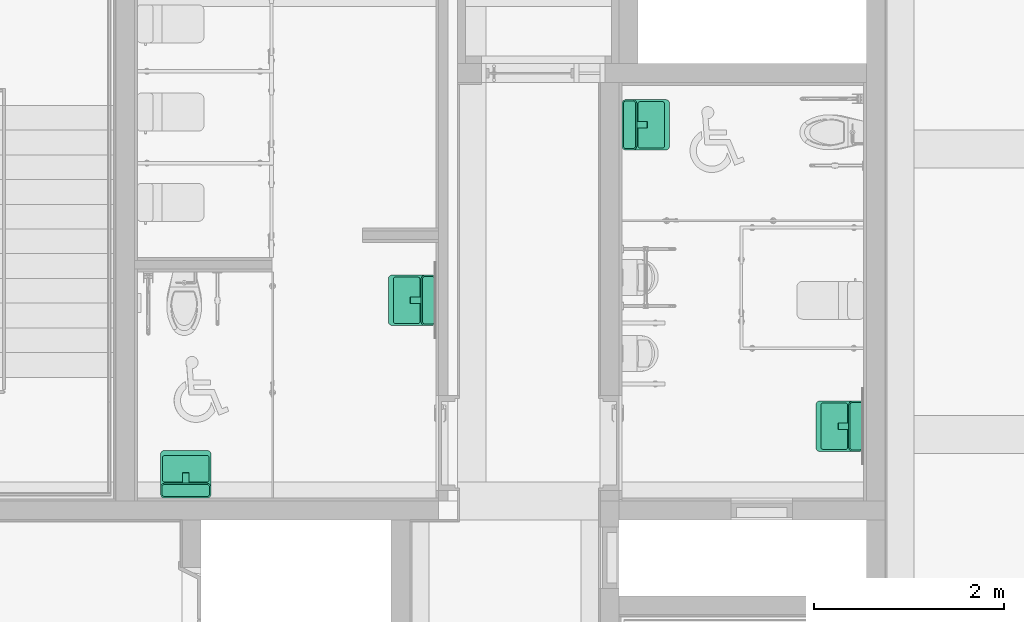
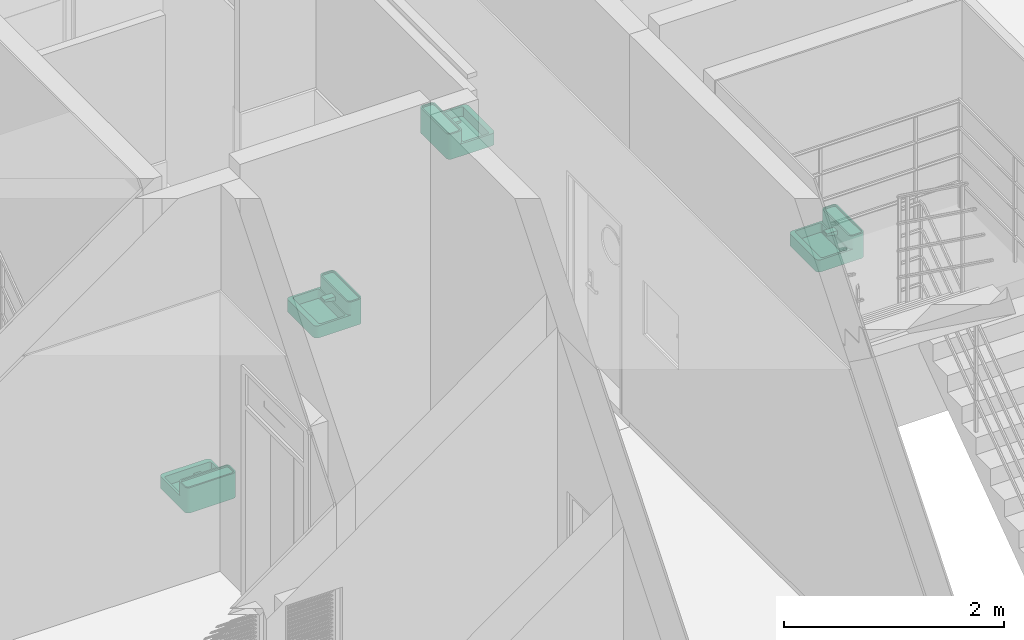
# One storey, part 70 of 74: 4 flow terminals.
"""IFC2X3 building model written with IfcOpenShell, lengths in millimetres."""

from ifc_helpers import new_model, entity, si_unit, converted_unit, derived_unit, direction, frame, origin, place, context, subcontext, project, spatial, faceted_brep, source, transform, mapped, material, material_list, type_object, type_shapes, element, save


model = new_model("IFC2X3")

# Units and contexts
model_context = context("Model", 3, precision=0.01, world=origin(), true_north=direction((6.123031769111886e-17, 1.0)))
body_context = subcontext(model_context, "Body", "Model", "MODEL_VIEW")
ifc_project = project(units=[si_unit("LENGTHUNIT", "METRE", prefix="MILLI"), si_unit("AREAUNIT", "SQUARE_METRE"), si_unit("VOLUMEUNIT", "CUBIC_METRE"), converted_unit("PLANEANGLEUNIT", "DEGREE", entity("IfcRatioMeasure", 0.017453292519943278), si_unit("PLANEANGLEUNIT", "RADIAN"), dimensions=[0, 0, 0, 0, 0, 0, 0]), si_unit("MASSUNIT", "GRAM", prefix="KILO"), derived_unit("MASSDENSITYUNIT", [(si_unit("MASSUNIT", "GRAM", prefix="KILO"), 1), (si_unit("LENGTHUNIT", "METRE"), -3)]), derived_unit("MOMENTOFINERTIAUNIT", [(si_unit("LENGTHUNIT", "METRE"), 4)]), si_unit("TIMEUNIT", "SECOND"), si_unit("FREQUENCYUNIT", "HERTZ"), si_unit("THERMODYNAMICTEMPERATUREUNIT", "DEGREE_CELSIUS"), derived_unit("THERMALTRANSMITTANCEUNIT", [(si_unit("MASSUNIT", "GRAM", prefix="KILO"), 1), (si_unit("THERMODYNAMICTEMPERATUREUNIT", "KELVIN"), -1), (si_unit("TIMEUNIT", "SECOND"), -3)]), derived_unit("VOLUMETRICFLOWRATEUNIT", [(si_unit("LENGTHUNIT", "METRE"), 3), (si_unit("TIMEUNIT", "SECOND"), -1)]), derived_unit("MASSFLOWRATEUNIT", [(si_unit("MASSUNIT", "GRAM", prefix="KILO"), 1), (si_unit("TIMEUNIT", "SECOND"), -1)]), derived_unit("ROTATIONALFREQUENCYUNIT", [(si_unit("TIMEUNIT", "SECOND"), -1)]), si_unit("ELECTRICCURRENTUNIT", "AMPERE"), si_unit("ELECTRICVOLTAGEUNIT", "VOLT"), si_unit("POWERUNIT", "WATT"), si_unit("FORCEUNIT", "NEWTON", prefix="KILO"), si_unit("ILLUMINANCEUNIT", "LUX"), si_unit("LUMINOUSFLUXUNIT", "LUMEN"), si_unit("LUMINOUSINTENSITYUNIT", "CANDELA"), derived_unit("USERDEFINED", [(si_unit("MASSUNIT", "GRAM", prefix="KILO"), -1), (si_unit("LENGTHUNIT", "METRE"), -2), (si_unit("TIMEUNIT", "SECOND"), 3), (si_unit("LUMINOUSFLUXUNIT", "LUMEN"), 1)]), derived_unit("SOUNDPOWERUNIT", [(si_unit("MASSUNIT", "GRAM", prefix="KILO"), 1), (si_unit("LENGTHUNIT", "METRE"), 2), (si_unit("TIMEUNIT", "SECOND"), -3)]), derived_unit("SOUNDPRESSUREUNIT", [(si_unit("MASSUNIT", "GRAM", prefix="KILO"), 1), (si_unit("LENGTHUNIT", "METRE"), -1), (si_unit("TIMEUNIT", "SECOND"), -2)]), derived_unit("LINEARVELOCITYUNIT", [(si_unit("LENGTHUNIT", "METRE"), 1), (si_unit("TIMEUNIT", "SECOND"), -1)]), si_unit("PRESSUREUNIT", "PASCAL"), derived_unit("USERDEFINED", [(si_unit("LENGTHUNIT", "METRE"), -2), (si_unit("MASSUNIT", "GRAM", prefix="KILO"), 1), (si_unit("TIMEUNIT", "SECOND"), -2)]), derived_unit("LINEARFORCEUNIT", [(si_unit("MASSUNIT", "GRAM", prefix="KILO"), 1), (si_unit("LENGTHUNIT", "METRE"), 1), (si_unit("TIMEUNIT", "SECOND"), -2), (si_unit("LENGTHUNIT", "METRE"), -1)]), derived_unit("PLANARFORCEUNIT", [(si_unit("MASSUNIT", "GRAM", prefix="KILO"), 1), (si_unit("LENGTHUNIT", "METRE"), 1), (si_unit("TIMEUNIT", "SECOND"), -2), (si_unit("LENGTHUNIT", "METRE"), -2)])], contexts=[model_context])

# Site, building, storey, space
site_placement = place(None, frame((-14167.972527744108, -657.2125860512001, 0.0)))
site = spatial("IfcSite", under=ifc_project, at=site_placement, Name="Default", CompositionType="ELEMENT")
building_placement = place(site_placement, origin())
building = spatial("IfcBuilding", under=site, at=building_placement, Name="Sample Building", CompositionType="ELEMENT")
storey_placement = place(building_placement, frame((0.0, 0.0, 4800.0)))
storey = spatial("IfcBuildingStorey", under=building, at=storey_placement, Name="지상 2층", CompositionType="ELEMENT", Elevation=4800.000000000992)
space_1_placement = place(storey_placement, origin())
space_1 = spatial("IfcSpace", under=storey, at=space_1_placement, Name="189", CompositionType="ELEMENT", InteriorOrExteriorSpace="INTERNAL")

# Flow terminal
ifc_material_1 = material(Name="KBIMS-스테인리스 스틸_도금")
ifc_material_2 = material(Name="KBIMS-도기")
ifc_material_list_1 = material_list([ifc_material_1, ifc_material_2])
ifc_material_list_2 = material_list([ifc_material_1, ifc_material_2])
distribution_element_type = type_object("IfcDistributionElementType", Name="PF411-평면붙임형 세면기:PF411-평면붙임형 세면기", material=ifc_material_list_2)
shared_shape = source(origin(), body_context, "Body", "Brep", [
    faceted_brep([(300.325836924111, 231.5952722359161, 201.9113756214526), (300.325836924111, 231.59527223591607, 190.0), (300.325836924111, 346.5952722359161, 163.45015802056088), (300.325836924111, 346.5952722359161, 210.0), (300.325836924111, 239.68389661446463, 210.0), (300.325836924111, 237.59040657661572, 209.724386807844), (300.325836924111, 235.63958442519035, 208.9163298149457), (300.325836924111, 233.96437546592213, 207.63089676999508), (300.325836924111, 232.67894242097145, 205.9556878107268), (300.325836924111, 231.87088542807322, 204.00486565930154), (232.86470754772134, 231.5952722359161, 201.9113756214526), (232.86470754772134, 231.87088542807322, 204.00486565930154), (232.86470754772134, 232.67894242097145, 205.9556878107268), (232.86470754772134, 233.96437546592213, 207.63089676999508), (232.86470754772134, 235.63958442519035, 208.9163298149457), (232.86470754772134, 237.59040657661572, 209.724386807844), (232.86470754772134, 239.68389661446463, 210.0), (232.86470754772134, 346.5952722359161, 210.0), (232.86470754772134, 346.5952722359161, 163.45015802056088), (232.86470754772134, 231.59527223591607, 190.0)], [[[0, 1, 2, 3, 4, 5, 6, 7, 8, 9]], [[10, 11, 12, 13, 14, 15, 16, 17, 18, 19]], [[5, 4, 16, 15]], [[6, 5, 15, 14]], [[13, 7, 6, 14]], [[9, 8, 12, 11]], [[9, 11, 10, 0]], [[13, 12, 8, 7]], [[1, 0, 10, 19]], [[2, 1, 19, 18]], [[3, 2, 18, 17]], [[4, 3, 17, 16]]]),
    faceted_brep([(526.236288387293, 481.59527223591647, 280.0), (519.8795434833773, 489.87954348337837, 280.0), (513.2459073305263, 474.09527223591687, 280.0), (515.743417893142, 468.0657483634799, 280.0), (530.2323052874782, 471.94803404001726, 280.0), (509.2729417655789, 479.27294176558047, 280.0), (511.59527223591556, 496.2362883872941, 280.0), (504.0952722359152, 483.2459073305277, 280.0), (501.9480340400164, 500.23230528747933, 280.0), (498.0657483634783, 485.74341789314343, 280.0), (491.5952722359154, 501.5952722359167, 280.0), (491.5952722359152, 486.5952722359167, 280.0), (41.59527223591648, 501.5952722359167, 280.0), (41.59527223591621, 486.5952722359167, 280.0), (35.124796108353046, 485.7434178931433, 280.0), (31.242510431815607, 500.2323052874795, 280.0), (29.095272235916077, 483.2459073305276, 280.0), (21.59527223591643, 496.23628838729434, 280.0), (23.9176027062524, 479.2729417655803, 280.0), (13.311000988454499, 489.87954348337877, 280.0), (19.944637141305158, 474.0952722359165, 280.0), (6.95425608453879, 481.59527223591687, 280.0), (17.447126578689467, 468.06574836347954, 280.0), (2.9582391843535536, 471.94803404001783, 280.0), (1.5952722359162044, 461.5952722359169, 280.0), (16.595272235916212, 461.5952722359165, 280.0), (16.595272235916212, 386.59527223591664, 280.0), (1.5952722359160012, 386.5952722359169, 280.0), (17.447126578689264, 380.12479610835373, 280.0), (2.958239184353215, 376.24251043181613, 280.0), (6.954256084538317, 366.595272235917, 280.0), (19.94463714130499, 374.09527223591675, 280.0), (13.311000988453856, 358.3110009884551, 280.0), (23.917602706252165, 368.9176027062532, 280.0), (21.59527223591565, 351.9542560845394, 280.0), (29.095272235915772, 364.94463714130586, 280.0), (31.24251043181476, 347.95823918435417, 280.0), (35.12479610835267, 362.44712657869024, 280.0), (41.59527223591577, 346.59527223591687, 280.0), (41.59527223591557, 361.5952722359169, 280.0), (491.5952722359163, 361.5952722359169, 280.0), (491.595272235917, 346.59527223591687, 280.0), (498.0657483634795, 362.44712657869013, 280.0), (501.9480340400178, 347.9582391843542, 280.0), (504.09527223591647, 364.94463714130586, 280.0), (511.59527223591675, 351.9542560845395, 280.0), (509.2729417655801, 368.91760270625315, 280.0), (519.8795434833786, 358.31100098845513, 280.0), (513.2459073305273, 374.0952722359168, 280.0), (526.236288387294, 366.59527223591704, 280.0), (515.743417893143, 380.1247961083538, 280.0), (530.2323052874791, 376.24251043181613, 280.0), (531.5952722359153, 386.59527223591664, 280.0), (516.5952722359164, 386.59527223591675, 280.0), (531.5952722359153, 461.5952722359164, 280.0), (516.5952722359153, 461.5952722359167, 280.0), (13.311000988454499, 489.87954348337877, 0.0), (21.59527223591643, 496.23628838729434, 0.0), (31.242510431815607, 500.2323052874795, 0.0), (41.59527223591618, 501.5952722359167, 0.0), (491.5952722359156, 501.5952722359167, 0.0), (501.9480340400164, 500.23230528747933, 0.0), (511.59527223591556, 496.2362883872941, 0.0), (519.8795434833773, 489.87954348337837, 0.0), (526.236288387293, 481.59527223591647, 0.0), (530.2323052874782, 471.94803404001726, 0.0), (531.5952722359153, 461.5952722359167, 0.0), (531.5952722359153, 41.59527223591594, 0.0), (530.232305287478, 31.2425104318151, 0.0), (526.2362883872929, 21.595272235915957, 0.0), (519.8795434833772, 13.31100098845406, 0.0), (511.5952722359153, 6.954256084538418, 0.0), (501.9480340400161, 2.958239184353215, 0.0), (491.5952722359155, 1.5952722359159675, 0.0), (41.59527223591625, 1.5952722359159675, 0.0), (31.242510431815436, 2.9582391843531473, 0.0), (21.595272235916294, 6.9542560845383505, 0.0), (13.311000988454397, 13.311000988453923, 0.0), (6.954256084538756, 21.59527223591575, 0.0), (2.95823918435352, 31.242510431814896, 0.0), (1.5952722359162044, 41.5952722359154, 0.0), (1.5952722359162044, 461.595272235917, 0.0), (2.9582391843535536, 471.94803404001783, 0.0), (6.95425608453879, 481.59527223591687, 0.0), (1.5952722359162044, 41.59527223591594, 135.0), (1.5952722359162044, 386.59527223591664, 135.0), (2.9582391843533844, 31.242510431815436, 135.0), (6.954256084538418, 21.59527223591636, 135.0), (13.311000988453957, 13.311000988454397, 135.0), (21.595272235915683, 6.954256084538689, 135.0), (31.242510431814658, 2.958239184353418, 135.0), (41.59527223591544, 1.5952722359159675, 135.0), (491.59527223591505, 1.5952722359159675, 135.0), (501.9480340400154, 2.9582391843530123, 135.0), (511.59527223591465, 6.954256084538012, 135.0), (519.8795434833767, 13.31100098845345, 135.0), (526.2362883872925, 21.59527223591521, 135.0), (530.2323052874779, 31.242510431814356, 135.0), (531.5952722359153, 41.59527223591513, 135.0), (531.5952722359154, 386.59527223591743, 135.0), (22.457263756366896, 313.81753553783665, 135.0), (6.954256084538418, 366.59527223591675, 135.0), (2.958239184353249, 376.2425104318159, 135.0), (13.31100098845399, 358.3110009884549, 135.0), (23.138747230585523, 318.993916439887, 135.0), (22.457263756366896, 75.92091166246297, 135.0), (25.13675568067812, 323.8175355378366, 135.0), (21.59527223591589, 351.9542560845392, 135.0), (28.315128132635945, 327.9596711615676, 135.0), (31.242510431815, 347.9582391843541, 135.0), (32.45726375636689, 331.13804361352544, 135.0), (37.28088285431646, 333.13605206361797, 135.0), (41.59527223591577, 346.59527223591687, 135.0), (42.45726375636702, 333.8175355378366, 135.0), (266.5952722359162, 333.8175355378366, 135.0), (491.5952722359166, 346.59527223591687, 135.0), (490.73328071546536, 333.8175355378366, 135.0), (495.90966161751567, 333.136052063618, 135.0), (501.9480340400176, 347.9582391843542, 135.0), (500.73328071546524, 331.13804361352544, 135.0), (504.8754163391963, 327.9596711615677, 135.0), (511.59527223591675, 351.9542560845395, 135.0), (508.05378879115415, 323.8175355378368, 135.0), (519.8795434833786, 358.31100098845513, 135.0), (510.0517972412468, 318.9939164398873, 135.0), (510.7332807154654, 313.81753553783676, 135.0), (526.236288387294, 366.5952722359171, 135.0), (530.2323052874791, 376.2425104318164, 135.0), (510.7332807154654, 75.92091166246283, 135.0), (510.0517972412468, 70.74453076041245, 135.0), (508.05378879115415, 65.92091166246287, 135.0), (504.8754163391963, 61.77877603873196, 135.0), (500.73328071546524, 58.60040358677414, 135.0), (495.90966161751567, 56.60239513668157, 135.0), (490.73328071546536, 55.920911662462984, 135.0), (266.5952722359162, 55.920911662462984, 135.0), (42.457263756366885, 55.920911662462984, 135.0), (37.28088285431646, 56.60239513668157, 135.0), (32.45726375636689, 58.600403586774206, 135.0), (28.315128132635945, 61.778776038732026, 135.0), (25.13675568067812, 65.92091166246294, 135.0), (23.138747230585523, 70.74453076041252, 135.0), (35.124796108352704, 362.44712657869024, 263.25881706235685), (41.59527223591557, 361.5952722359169, 263.25881706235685), (491.5952722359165, 361.5952722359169, 263.25881706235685), (498.06574836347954, 362.44712657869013, 263.25881706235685), (504.09527223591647, 364.94463714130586, 263.25881706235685), (509.2729417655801, 368.91760270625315, 263.25881706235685), (513.2459073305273, 374.09527223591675, 263.25881706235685), (515.743417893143, 380.1247961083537, 263.25881706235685), (516.5952722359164, 386.59527223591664, 263.25881706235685), (516.5952722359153, 461.5952722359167, 263.25881706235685), (515.7434178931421, 468.0657483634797, 263.25881706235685), (513.2459073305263, 474.0952722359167, 263.25881706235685), (509.27294176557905, 479.27294176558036, 263.25881706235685), (504.0952722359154, 483.24590733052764, 263.25881706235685), (498.0657483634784, 485.7434178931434, 263.25881706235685), (491.5952722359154, 486.5952722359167, 263.25881706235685), (41.59527223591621, 486.5952722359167, 263.25881706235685), (35.12479610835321, 485.7434178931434, 263.25881706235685), (29.095272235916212, 483.24590733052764, 263.25881706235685), (23.917602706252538, 479.27294176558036, 263.25881706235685), (19.94463714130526, 474.0952722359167, 263.25881706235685), (17.4471265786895, 468.06574836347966, 263.25881706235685), (16.595272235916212, 461.5952722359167, 263.25881706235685), (16.59527223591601, 386.59527223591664, 263.25881706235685), (17.447126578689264, 380.12479610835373, 263.25881706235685), (19.94463714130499, 374.09527223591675, 263.25881706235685), (23.917602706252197, 368.91760270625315, 263.25881706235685), (29.095272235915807, 364.94463714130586, 263.25881706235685), (28.31512813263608, 327.95967116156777, 30.152650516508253), (25.136755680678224, 323.8175355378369, 30.152650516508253), (23.13874723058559, 318.9939164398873, 30.152650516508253), (22.457263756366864, 313.81753553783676, 30.152650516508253), (22.457263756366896, 75.92091166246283, 30.152650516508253), (23.138747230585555, 70.74453076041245, 30.152650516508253), (25.136755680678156, 65.92091166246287, 30.152650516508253), (28.315128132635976, 61.77877603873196, 30.152650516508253), (32.45726375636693, 58.60040358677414, 30.152650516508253), (37.280882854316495, 56.60239513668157, 30.152650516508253), (42.457263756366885, 55.920911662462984, 30.152650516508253), (266.5952722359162, 55.920911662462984, 30.152650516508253), (490.7332807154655, 55.920911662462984, 30.152650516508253), (495.90966161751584, 56.60239513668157, 30.152650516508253), (500.7332807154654, 58.60040358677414, 30.152650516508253), (504.8754163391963, 61.77877603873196, 30.152650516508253), (508.05378879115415, 65.92091166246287, 30.152650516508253), (510.0517972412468, 70.74453076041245, 30.152650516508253), (510.7332807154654, 75.92091166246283, 30.152650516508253), (510.7332807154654, 313.81753553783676, 30.152650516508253), (510.0517972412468, 318.99391643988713, 30.152650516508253), (508.05378879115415, 323.8175355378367, 30.152650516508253), (504.8754163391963, 327.95967116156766, 30.152650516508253), (500.7332807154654, 331.13804361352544, 30.152650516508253), (495.90966161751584, 333.13605206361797, 30.152650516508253), (490.7332807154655, 333.8175355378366, 30.152650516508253), (266.5952722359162, 333.8175355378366, 30.152650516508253), (42.45726375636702, 333.8175355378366, 30.152650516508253), (37.28088285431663, 333.136052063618, 30.152650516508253), (32.45726375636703, 331.13804361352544, 30.152650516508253)], [[[0, 1, 2]], [[0, 2, 3]], [[4, 0, 3]], [[2, 1, 5]], [[6, 5, 1]], [[7, 5, 6]], [[7, 6, 8]], [[7, 8, 9]], [[9, 8, 10]], [[11, 9, 10]], [[10, 12, 11]], [[12, 13, 11]], [[14, 13, 12]], [[14, 12, 15]], [[14, 15, 16]], [[16, 15, 17]], [[18, 16, 17]], [[17, 19, 18]], [[19, 20, 18]], [[20, 19, 21]], [[20, 21, 22]], [[22, 21, 23]], [[23, 24, 22]], [[25, 22, 24]], [[25, 24, 26]], [[27, 26, 24]], [[28, 26, 27]], [[28, 27, 29]], [[28, 29, 30]], [[30, 31, 28]], [[32, 31, 30]], [[31, 32, 33]], [[33, 32, 34]], [[35, 33, 34]], [[35, 34, 36]], [[37, 35, 36]], [[38, 37, 36]], [[39, 37, 38]], [[39, 38, 40]], [[41, 40, 38]], [[40, 41, 42]], [[41, 43, 42]], [[44, 42, 43]], [[45, 44, 43]], [[46, 44, 45]], [[46, 45, 47]], [[47, 48, 46]], [[48, 47, 49]], [[50, 48, 49]], [[51, 50, 49]], [[52, 50, 51]], [[52, 53, 50]], [[53, 52, 54]], [[54, 4, 3]], [[3, 55, 54]], [[54, 55, 53]], [[56, 57, 58, 59, 60, 61, 62, 63, 64, 65, 66, 67, 68, 69, 70, 71, 72, 73, 74, 75, 76, 77, 78, 79, 80, 81, 82, 83]], [[12, 10, 60, 59]], [[15, 58, 57, 17]], [[17, 57, 56, 19]], [[59, 58, 15, 12]], [[21, 83, 82, 23]], [[23, 82, 81, 24]], [[19, 56, 83, 21]], [[24, 81, 80, 84, 85, 27]], [[86, 79, 78, 87]], [[87, 78, 77, 88]], [[80, 79, 86, 84]], [[89, 76, 75, 90]], [[90, 75, 74, 91]], [[88, 77, 76, 89]], [[92, 91, 74, 73]], [[93, 72, 71, 94]], [[94, 71, 70, 95]], [[73, 72, 93, 92]], [[96, 69, 68, 97]], [[97, 68, 67, 98]], [[95, 70, 69, 96]], [[54, 52, 99, 98, 67, 66]], [[4, 65, 64, 0]], [[0, 64, 63, 1]], [[66, 65, 4, 54]], [[6, 62, 61, 8]], [[8, 61, 60, 10]], [[1, 63, 62, 6]], [[100, 101, 102]], [[101, 100, 103]], [[103, 100, 104]], [[84, 100, 102]], [[100, 84, 105]], [[106, 103, 104]], [[106, 107, 103]], [[108, 107, 106]], [[109, 107, 108]], [[110, 109, 108]], [[109, 110, 111]], [[112, 109, 111]], [[113, 112, 111]], [[114, 112, 113]], [[115, 112, 114]], [[114, 116, 115]], [[115, 116, 117]], [[118, 115, 117]], [[119, 118, 117]], [[118, 119, 120]], [[120, 121, 118]], [[121, 120, 122]], [[122, 123, 121]], [[123, 122, 124]], [[123, 124, 125]], [[126, 123, 125]], [[125, 127, 126]], [[127, 125, 98]], [[128, 98, 125]], [[98, 128, 129]], [[129, 130, 98]], [[98, 130, 131]], [[131, 132, 98]], [[132, 97, 98]], [[132, 133, 97]], [[97, 133, 96]], [[96, 133, 95]], [[94, 95, 133]], [[134, 94, 133]], [[93, 94, 134]], [[93, 134, 92]], [[134, 135, 92]], [[92, 135, 91]], [[91, 135, 136]], [[136, 90, 91]], [[90, 136, 89]], [[137, 89, 136]], [[89, 137, 88]], [[137, 87, 88]], [[137, 86, 87]], [[138, 86, 137]], [[138, 84, 86]], [[139, 84, 138]], [[140, 84, 139]], [[140, 141, 84]], [[141, 105, 84]], [[98, 99, 127]], [[84, 102, 85]], [[115, 41, 38, 112]], [[109, 112, 38, 36]], [[107, 109, 36, 34]], [[34, 32, 103, 107]], [[102, 101, 30, 29]], [[85, 102, 29, 27]], [[32, 30, 101, 103]], [[127, 99, 52, 51]], [[126, 127, 51, 49]], [[49, 47, 123, 126]], [[118, 121, 45, 43]], [[115, 118, 43, 41]], [[47, 45, 121, 123]], [[142, 143, 144, 145, 146, 147, 148, 149, 150, 151, 152, 153, 154, 155, 156, 157, 158, 159, 160, 161, 162, 163, 164, 165, 166, 167, 168, 169]], [[164, 25, 26, 165]], [[166, 165, 26, 28]], [[167, 166, 28, 31]], [[167, 31, 33, 168]], [[169, 168, 33, 35]], [[142, 169, 35, 37]], [[142, 37, 39, 143]], [[143, 39, 40, 144]], [[145, 144, 40, 42]], [[146, 145, 42, 44]], [[146, 44, 46, 147]], [[148, 147, 46, 48]], [[149, 148, 48, 50]], [[149, 50, 53, 150]], [[150, 53, 55, 151]], [[152, 151, 55, 3]], [[153, 152, 3, 2]], [[153, 2, 5, 154]], [[155, 154, 5, 7]], [[9, 156, 155, 7]], [[9, 11, 157, 156]], [[157, 11, 13, 158]], [[159, 158, 13, 14]], [[160, 159, 14, 16]], [[160, 16, 18, 161]], [[162, 161, 18, 20]], [[163, 162, 20, 22]], [[163, 22, 25, 164]], [[170, 171, 172, 173, 174, 175, 176, 177, 178, 179, 180, 181, 182, 183, 184, 185, 186, 187, 188, 189, 190, 191, 192, 193, 194, 195, 196, 197, 198, 199]], [[196, 195, 116, 114, 113, 197]], [[199, 198, 111, 110]], [[170, 199, 110, 108]], [[113, 111, 198, 197]], [[172, 171, 106, 104]], [[173, 172, 104, 100]], [[106, 171, 170, 108]], [[173, 100, 105, 174]], [[176, 175, 141, 140]], [[177, 176, 140, 139]], [[105, 141, 175, 174]], [[179, 178, 138, 137]], [[180, 179, 137, 136]], [[138, 178, 177, 139]], [[180, 136, 135, 134, 182, 181]], [[184, 183, 133, 132]], [[185, 184, 132, 131]], [[134, 133, 183, 182]], [[187, 186, 130, 129]], [[188, 187, 129, 128]], [[130, 186, 185, 131]], [[188, 128, 125, 189]], [[122, 120, 192, 191]], [[124, 190, 189, 125]], [[191, 190, 124, 122]], [[194, 193, 119, 117]], [[195, 194, 117, 116]], [[119, 193, 192, 120]]]),
])
type_shapes(distribution_element_type, [shared_shape])
flow_terminal_1_placement = place(space_1_placement, frame((40236.3684827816, 23508.80757406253, 595.0), z_axis=(0.0, 0.0, 1.0), x_axis=(0.0, -1.0, 0.0)))
element("IfcFlowTerminal", 1, at=flow_terminal_1_placement, inside=space_1, type_object=distribution_element_type, material=ifc_material_list_1, Name="PF411-평면붙임형 세면기:PF411-평면붙임형 세면기", ObjectType="PF411-평면붙임형 세면기:PF411-평면붙임형 세면기", context=body_context, shape_type="MappedRepresentation", body=[
    mapped(shared_shape, transform((0.0, 0.0, 0.0), scale=1.0)),
])

# Space
space_2_placement = place(storey_placement, origin())
space_2 = spatial("IfcSpace", under=storey, at=space_2_placement, Name="188", CompositionType="ELEMENT", InteriorOrExteriorSpace="INTERNAL")

# Flow terminals
ifc_material_list_3 = material_list([ifc_material_1, ifc_material_2])
flow_terminal_2_placement = place(space_2_placement, frame((33872.799922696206, 22988.807575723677, 635.0), z_axis=(0.0, 0.0, 1.0), x_axis=(-1.0, 0.0, 0.0)))
element("IfcFlowTerminal", 2, at=flow_terminal_2_placement, inside=space_2, type_object=distribution_element_type, material=ifc_material_list_3, Name="PF411-평면붙임형 세면기:PF411-평면붙임형 세면기", ObjectType="PF411-평면붙임형 세면기:PF411-평면붙임형 세면기", context=body_context, shape_type="MappedRepresentation", body=[
    mapped(shared_shape, transform((0.0, 0.0, 0.0), scale=1.0)),
])
ifc_material_list_4 = material_list([ifc_material_1, ifc_material_2])
flow_terminal_3_placement = place(space_2_placement, frame((35736.36848278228, 24833.90833582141, 635.0), z_axis=(0.0, 0.0, 1.0), x_axis=(0.0, -1.0, 0.0)))
element("IfcFlowTerminal", 3, at=flow_terminal_3_placement, inside=space_2, type_object=distribution_element_type, material=ifc_material_list_4, Name="PF411-평면붙임형 세면기:PF411-평면붙임형 세면기", ObjectType="PF411-평면붙임형 세면기:PF411-평면붙임형 세면기", context=body_context, shape_type="MappedRepresentation", body=[
    mapped(shared_shape, transform((0.0, 0.0, 0.0), scale=1.0)),
])
ifc_material_list_5 = material_list([ifc_material_1, ifc_material_2])
flow_terminal_4_placement = place(space_1_placement, frame((38699.559070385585, 26147.154047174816, 635.0), z_axis=(0.0, 0.0, 1.0), x_axis=(0.0, 1.0, 0.0)))
element("IfcFlowTerminal", 4, at=flow_terminal_4_placement, inside=space_1, type_object=distribution_element_type, material=ifc_material_list_5, Name="PF411-평면붙임형 세면기:PF411-평면붙임형 세면기", ObjectType="PF411-평면붙임형 세면기:PF411-평면붙임형 세면기", context=body_context, shape_type="MappedRepresentation", body=[
    mapped(shared_shape, transform((0.0, 0.0, 0.0), scale=1.0)),
])

save(model, "model.ifc")
